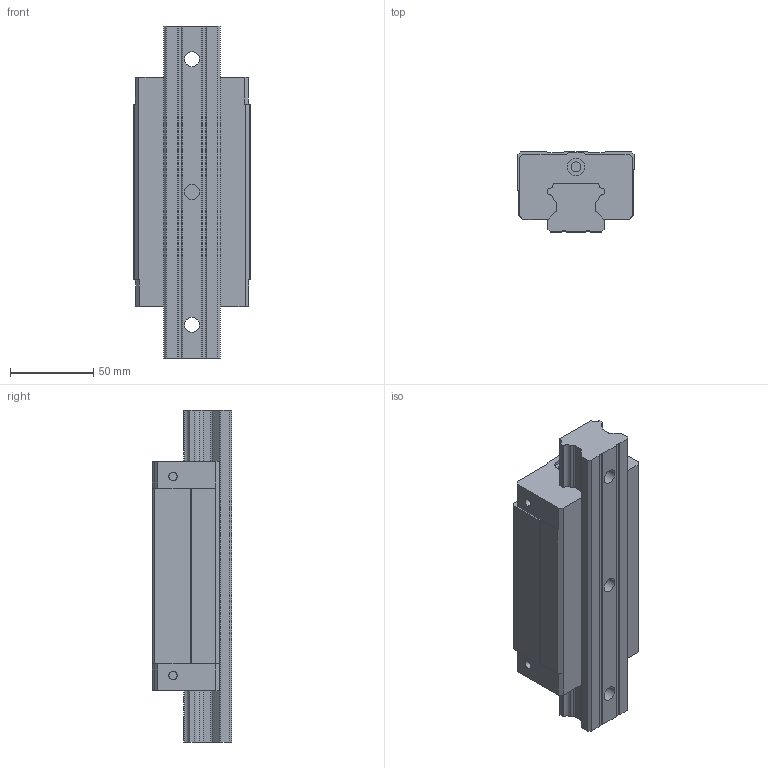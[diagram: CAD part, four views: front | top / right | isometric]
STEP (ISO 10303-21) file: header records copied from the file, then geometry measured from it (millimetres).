
FILE_DESCRIPTION((''),'2;1');
FILE_NAME('HGL35HA_ASM','2008-07-11T',('immo'),(''),'PRO/ENGINEER BY PARAMETRIC TECHNOLOGY CORPORATION, 2004360','PRO/ENGINEER BY PARAMETRIC TECHNOLOGY CORPORATION, 2004360','');
FILE_SCHEMA(('CONFIG_CONTROL_DESIGN'));
Length unit declared in the file: millimetre
Products named in the file (6): PRT0001; PRT0002; ASM0001_ASM_ASM_ASM; HGH35H_ASM_ASM_ASM; HGL35H_ASM_ASM; HGL35HA_ASM
Assembly tree (5 placements, depth 5):
  HGL35HA_ASM
    HGL35H_ASM_ASM
      HGH35H_ASM_ASM_ASM
        ASM0001_ASM_ASM_ASM
          PRT0001
          PRT0002
Bounding box: 70 x 48 x 200 mm (x, y, z)
Volume: 455951.3 mm3; surface area: 73558.8 mm2
Topology: 2 solids, 2 shells, 171 faces, 460 edges, 312 vertices
Faces by surface type: plane 109, cylinder 62
Entity records: 5582 total; most frequent: CARTESIAN_POINT 958, DIRECTION 956, ORIENTED_EDGE 920, EDGE_CURVE 460, VECTOR 336, LINE 336, VERTEX_POINT 312, AXIS2_PLACEMENT_3D 310
